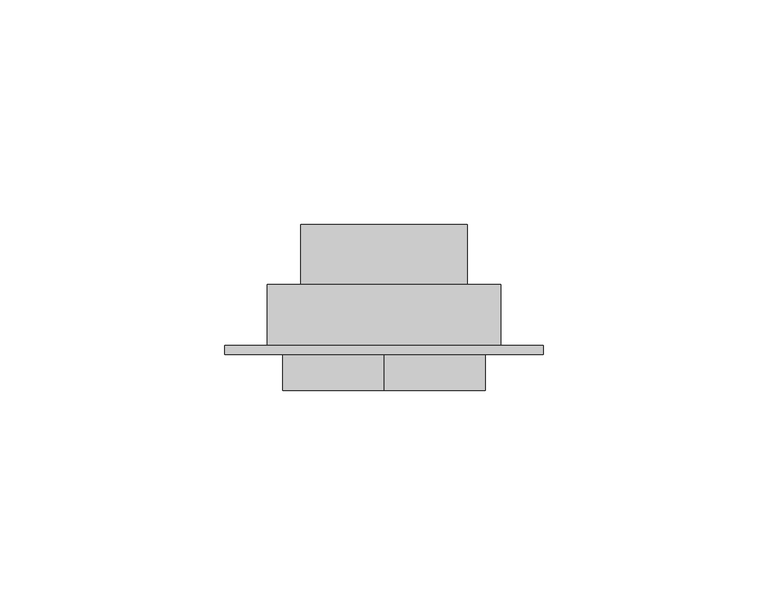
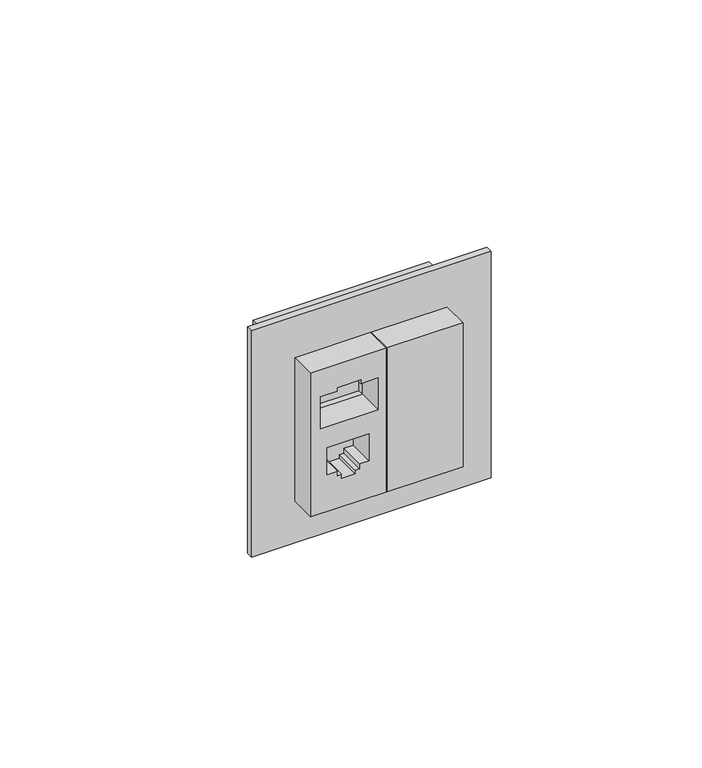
"""IFC4 building model written with IfcOpenShell, lengths in millimetres: proxy geometry."""

from ifc_helpers import new_model, si_unit, frame, origin, place, context, project, spatial, polyline, outline, extrude, faceted_brep, source, transform, mapped, element, save


def electrical_fixtures_d27445fa(model_context):
    return source(origin(), model_context, "Body", "SolidModel", [
        extrude(outline(polyline([(22.5, -36.7), (22.5, -44.7), (0.0, -44.7), (0.0, -36.7), (22.5, -36.7)])), frame((0.0, 0.0, -22.5), z_axis=(0.0, 0.0, 1.0), x_axis=(1.0, 0.0, 0.0)), (0.0, 0.0, 1.0), 45.0),
        extrude(outline(polyline([(22.5, -22.5), (-22.5, -22.5), (-22.5, 0.0), (22.5, 0.0), (22.5, -22.5)]), holes=[polyline([(-2.538878, -5.2958415), (-10.97753, -5.2958415), (-10.97753, -8.0834782), (-12.4360784, -8.0834782), (-12.4360784, -9.3604874), (-13.6452738, -9.3604874), (-13.6452738, -13.3604874), (-12.4360784, -13.3604874), (-12.4360784, -14.6374966), (-10.97753, -14.6374966), (-10.97753, -17.6587753), (-2.538878, -17.6587753), (-2.538878, -5.2958415)]), polyline([(4.0, -2.6040808), (4.0, -19.6040808), (14.0, -19.6040808), (14.0, -14.6040808), (15.2, -14.6040808), (15.2, -7.6040808), (14.0, -7.6040808), (14.0, -2.6040808), (4.0, -2.6040808)])]), frame((0.0, -44.7, 0.0), z_axis=(0.0, 1.0, 0.0), x_axis=(0.0, 0.0, 1.0)), (0.0, 0.0, 1.0), 8.0),
        faceted_brep([(35.45, -34.7, -35.45), (-35.45, -34.7, -35.45), (-35.45, -34.7, 35.45), (35.45, -34.7, 35.45), (-26.0, -34.7, -26.0), (26.0, -34.7, -26.0), (26.0, -34.7, 26.0), (-26.0, -34.7, 26.0), (35.45, -36.7, -35.45), (35.45, -36.7, 35.45), (-35.45, -36.7, 35.45), (-35.45, -36.7, -35.45), (19.6040808, -36.7, 4.0), (2.6040808, -36.7, 4.0), (2.6040808, -36.7, 14.0), (7.6040808, -36.7, 14.0), (7.6040808, -36.7, 15.2), (14.6040808, -36.7, 15.2), (14.6040808, -36.7, 14.0), (19.6040808, -36.7, 14.0), (-2.6040808, -36.7, 4.0), (-19.6040808, -36.7, 4.0), (-19.6040808, -36.7, 14.0), (-14.6040808, -36.7, 14.0), (-14.6040808, -36.7, 15.2), (-7.6040808, -36.7, 15.2), (-7.6040808, -36.7, 14.0), (-2.6040808, -36.7, 14.0), (26.0, -21.2, -26.0), (-26.0, -21.2, -26.0), (-26.0, -21.2, 26.0), (26.0, -21.2, 26.0), (-18.5, -21.2, -15.5), (18.5, -21.2, -15.5), (18.5, -21.2, 4.0), (-18.5, -21.2, 4.0), (18.5, -7.8, -15.5), (-18.5, -7.8, -15.5), (-18.5, -7.8, 4.0), (18.5, -7.8, 4.0), (19.6040808, -34.7, 4.0), (19.6040808, -34.7, 14.0), (14.6040808, -34.7, 14.0), (14.6040808, -34.7, 15.2), (7.6040808, -34.7, 15.2), (7.6040808, -34.7, 14.0), (2.6040808, -34.7, 14.0), (2.6040808, -34.7, 4.0), (-19.6040808, -34.7, 4.0), (-2.6040808, -34.7, 4.0), (-2.6040808, -34.7, 14.0), (-7.6040808, -34.7, 14.0), (-7.6040808, -34.7, 15.2), (-14.6040808, -34.7, 15.2), (-14.6040808, -34.7, 14.0), (-19.6040808, -34.7, 14.0)], [[[0, 1, 2, 3], [4, 5, 6, 7]], [[8, 9, 10, 11], [12, 13, 14, 15, 16, 17, 18, 19], [20, 21, 22, 23, 24, 25, 26, 27]], [[1, 0, 8, 11]], [[2, 1, 11, 10]], [[3, 2, 10, 9]], [[0, 3, 9, 8]], [[28, 29, 30, 31], [32, 33, 34, 35]], [[29, 28, 5, 4]], [[30, 29, 4, 7]], [[31, 30, 7, 6]], [[28, 31, 6, 5]], [[36, 37, 38, 39]], [[37, 36, 33, 32]], [[38, 37, 32, 35]], [[39, 38, 35, 34]], [[36, 39, 34, 33]], [[40, 41, 42, 43, 44, 45, 46, 47]], [[40, 47, 13, 12]], [[47, 46, 14, 13]], [[46, 45, 15, 14]], [[45, 44, 16, 15]], [[44, 43, 17, 16]], [[43, 42, 18, 17]], [[42, 41, 19, 18]], [[41, 40, 12, 19]], [[48, 49, 50, 51, 52, 53, 54, 55]], [[49, 48, 21, 20]], [[50, 49, 20, 27]], [[51, 50, 27, 26]], [[52, 51, 26, 25]], [[53, 52, 25, 24]], [[54, 53, 24, 23]], [[55, 54, 23, 22]], [[48, 55, 22, 21]]]),
    ])


if __name__ == "__main__":
    model = new_model("IFC4")
    model_context = context("Model", 3, world=origin())
    ifc_project = project(units=[si_unit("LENGTHUNIT", "METRE", prefix="MILLI")], contexts=[model_context])
    site = spatial("IfcSite", under=ifc_project)
    building = spatial("IfcBuilding", under=site)
    placement = place(None, origin())
    electrical_fixtures_shape = electrical_fixtures_d27445fa(model_context)
    element("IfcBuildingElementProxy", 1, Name="Electrical Fixtures", at=placement, inside=building, context=model_context, shape_type="MappedRepresentation", body=[
        mapped(electrical_fixtures_shape, transform((0.0, 0.0, 0.0), x_axis=(1.0, 0.0, 0.0), y_axis=(0.0, 1.0, 0.0), z_axis=(0.0, 0.0, 1.0))),
    ])
    save(model, "model.ifc")
